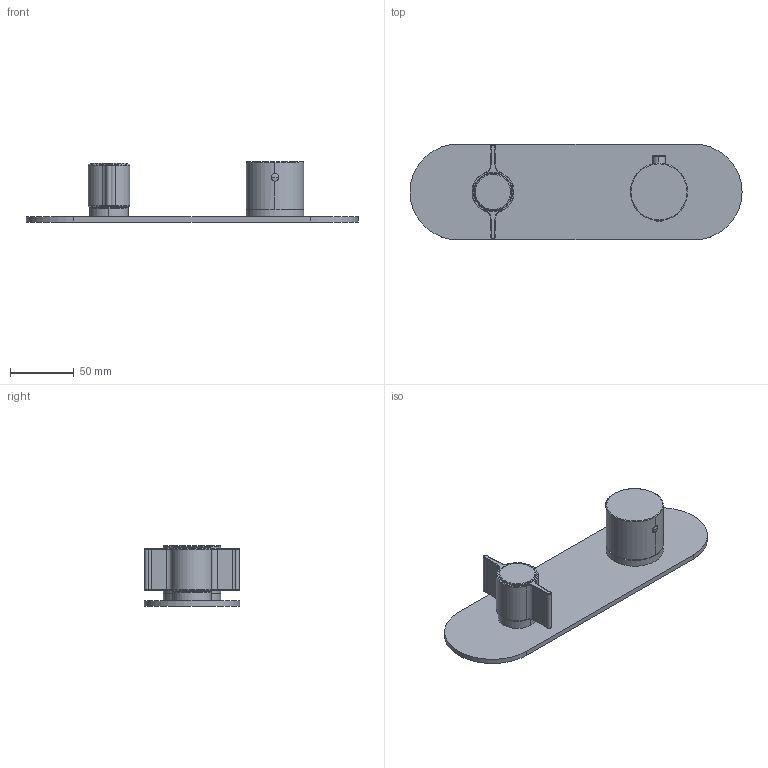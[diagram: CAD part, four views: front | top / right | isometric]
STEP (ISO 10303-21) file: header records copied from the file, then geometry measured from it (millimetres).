
FILE_DESCRIPTION((''),'2;1');
FILE_NAME('76000J972B000000_SW0001','2025-03-18T09:23:38',('cristian.dorz'),(''),'CREO PARAMETRIC BY PTC INC, 2022281','CREO PARAMETRIC BY PTC INC, 2022281','');
FILE_SCHEMA(('AUTOMOTIVE_DESIGN { 1 0 10303 214 1 1 1 1 }'));
Length unit declared in the file: millimetre
Products named in the file (1): 76000J972B000000_SW0001
Bounding box: 260 x 75 x 47 mm (x, y, z)
Volume: 181639.8 mm3; surface area: 53009.9 mm2
Topology: 1 solids, 1 shells, 116 faces, 275 edges, 164 vertices
Faces by surface type: cylinder 54, torus 31, plane 25, bspline 2, sphere 2, cone 2
Entity records: 4926 total; most frequent: CARTESIAN_POINT 1232, DIRECTION 645, ORIENTED_EDGE 542, AXIS2_PLACEMENT_3D 271, EDGE_CURVE 271, VERTEX_POINT 164, CIRCLE 147, EDGE_LOOP 129
